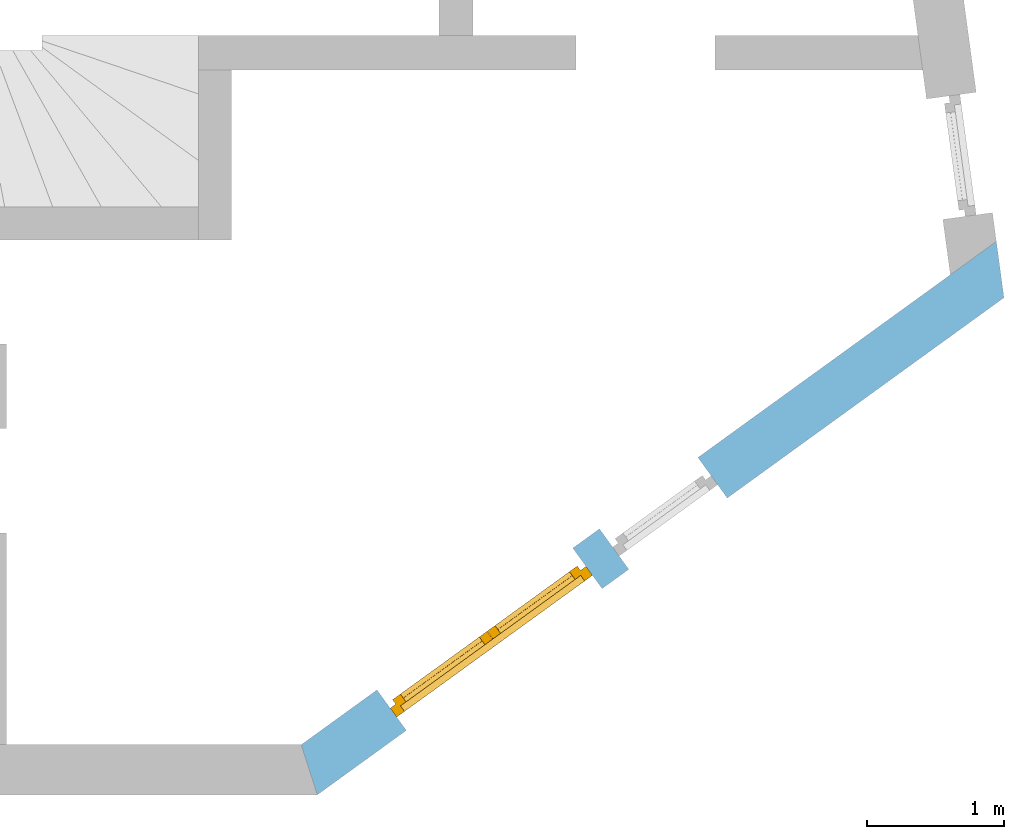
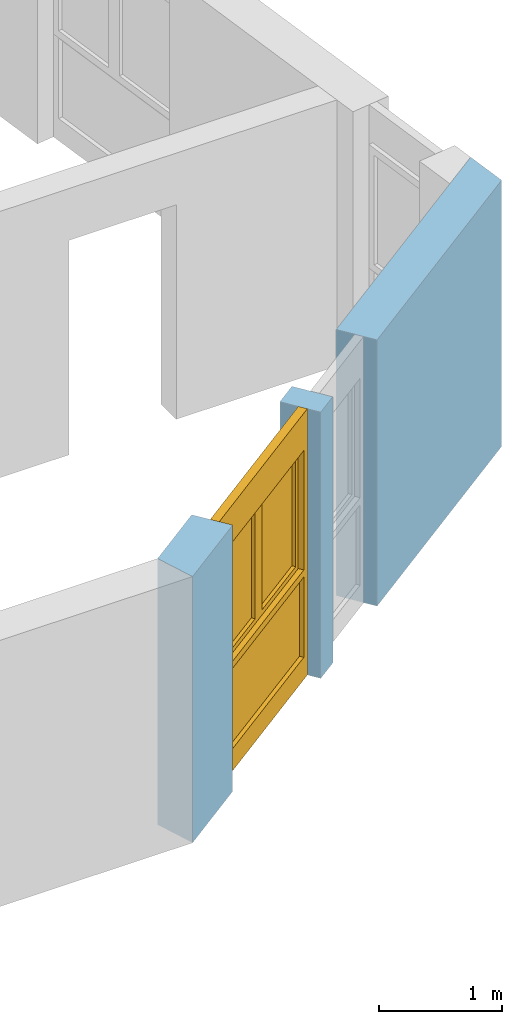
# One storey, part 39 of 42: 1 window, 2 openings, plus 1 element that does not belong to this part.
"""IFC2X3 building model written with IfcOpenShell, lengths in millimetres."""

from ifc_helpers import new_model, entity, si_unit, converted_unit, frame, frame_2d, origin, origin_with_axes, place, context, subcontext, project, spatial, polyline, rectangle, outline, extrude, faceted_brep, material, layer, layer_set, layer_usage, type_object, element, fill, save


model = new_model("IFC2X3")

# Units and contexts
model_context = context("Model", 3, precision=1e-05, world=origin())
body_context = subcontext(model_context, "Body", "Model", "MODEL_VIEW")
ifc_project = project(units=[si_unit("LENGTHUNIT", "METRE", prefix="MILLI"), converted_unit("PLANEANGLEUNIT", "DEGREE", entity("IfcPlaneAngleMeasure", 0.0174532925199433), si_unit("PLANEANGLEUNIT", "RADIAN"), dimensions=[0, 0, 0, 0, 0, 0, 0]), si_unit("AREAUNIT", "SQUARE_METRE"), si_unit("VOLUMEUNIT", "CUBIC_METRE")], contexts=[model_context])

# Building, storey
building_placement = place(None, origin())
building = spatial("IfcBuilding", under=ifc_project, at=building_placement, Name="Gebäude", CompositionType="ELEMENT")
storey_placement = place(building_placement, frame((0.0, 0.0, 2730.0), z_axis=(0.0, 0.0, 1.0), x_axis=(1.0, 0.0, 0.0)))
storey = spatial("IfcBuildingStorey", under=building, at=storey_placement, Name="OG.- Grundriss", CompositionType="ELEMENT", Elevation=2730.0)

# Wall, openings, window
ifc_material_1 = material(Name="Poroton")
ifc_layer = layer(ifc_material_1, 364.9999999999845)
ifc_layer_set = layer_set([ifc_layer])
ifc_layer_usage = layer_usage(ifc_layer_set, "AXIS2", "POSITIVE", 0.0)
wall_placement = place(storey_placement, frame((180502.7928055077, 125274.8877315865, 0.0), z_axis=(0.0, 0.0, 1.0), x_axis=(0.8099951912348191, 0.5864365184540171, 0.0)))
wall = element("IfcWallStandardCase", 1, at=wall_placement, inside=storey, material=ifc_layer_usage, Name="<Unnamed Element>", context=body_context, shape_type="SweptSolid", body=[
    extrude(outline(polyline([(0.0, 0.0), (6172.876154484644, 0.0), (6368.596706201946, 364.9999999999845), (118.2596121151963, 365.0000000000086), (0.0, 0.0)])), origin_with_axes(), (0.0, 0.0, 1.0), 2650.0),
])
opening_1_placement = place(wall_placement, frame((2800.000000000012, 3.205968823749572e-11, 0.0), z_axis=(0.0, 1.0, 0.0), x_axis=(0.0, 0.0, 1.0)))
element("IfcOpeningElement", 2, at=opening_1_placement, cuts=wall, Name="Fensteröffnung", ObjectType="Opening", context=body_context, shape_type="SweptSolid", body=[
    extrude(rectangle(XDim=2650.0, YDim=885.0, at=frame_2d((1325.0, 442.5), x_axis=(1.0, 0.0))), origin_with_axes(), (0.0, 0.0, 1.0), 365.0),
])
opening_2_placement = place(wall_placement, frame((799.9999999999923, 3.126388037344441e-12, 0.0), z_axis=(0.0, 1.0, 0.0), x_axis=(0.0, 0.0, 1.0)))
opening_2 = element("IfcOpeningElement", 3, at=opening_2_placement, cuts=wall, Name="Fensteröffnung", ObjectType="Opening", context=body_context, shape_type="SweptSolid", body=[
    extrude(rectangle(XDim=2650.0, YDim=1760.000000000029, at=frame_2d((1325.0, 880.0000000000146), x_axis=(1.0, 0.0))), origin_with_axes(), (0.0, 0.0, 1.0), 365.0),
])
ifc_material_2 = material()
window_style = type_object("IfcWindowStyle", Name="Fenster", ConstructionType="NOTDEFINED", OperationType="USERDEFINED", ParameterTakesPrecedence=False, Sizeable=False)
window_placement = place(opening_2_placement, frame((0.0, 0.0, 0.0), z_axis=(1.0, 0.0, 0.0), x_axis=(0.0, 1.0, 0.0)))
window = element("IfcWindow", 4, at=window_placement, inside=storey, type_object=window_style, material=ifc_material_2, Name="Fenster", OverallHeight=2650.0, OverallWidth=1760.0, context=body_context, shape_type="Brep", body=[
    faceted_brep([(-2.896616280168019e-11, 200.0000000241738, 2650.0), (-2.896616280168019e-11, 200.0000000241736, -2.449293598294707e-15), (69.99999999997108, 200.0000000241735, -2.449293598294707e-15), (69.99999999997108, 200.0000000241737, 2650.0), (-2.91038304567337e-11, 120.0000000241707, 2.449293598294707e-15), (-2.91038304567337e-11, 120.0000000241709, 2650.0), (69.99999999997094, 120.0000000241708, 2650.0), (69.99999999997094, 120.0000000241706, 2.449293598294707e-15), (-2.896616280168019e-11, 200.0000000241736, -2.449293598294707e-15), (-2.896616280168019e-11, 200.0000000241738, 2650.0), (-2.91038304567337e-11, 120.0000000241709, 2650.0), (-2.91038304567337e-11, 120.0000000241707, 2.449293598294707e-15), (69.99999999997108, 200.0000000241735, -2.449293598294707e-15), (-2.896616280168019e-11, 200.0000000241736, -2.449293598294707e-15), (-2.91038304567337e-11, 120.0000000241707, 2.449293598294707e-15), (69.99999999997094, 120.0000000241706, 2.449293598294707e-15), (69.99999999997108, 200.0000000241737, 2650.0), (69.99999999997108, 200.0000000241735, -2.449293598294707e-15), (69.99999999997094, 120.0000000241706, 2.449293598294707e-15), (69.99999999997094, 120.0000000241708, 2650.0), (-2.896616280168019e-11, 200.0000000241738, 2650.0), (69.99999999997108, 200.0000000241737, 2650.0), (69.99999999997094, 120.0000000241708, 2650.0), (-2.91038304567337e-11, 120.0000000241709, 2650.0)], [[[0, 1, 2, 3]], [[4, 5, 6, 7]], [[8, 9, 10, 11]], [[12, 13, 14, 15]], [[16, 17, 18, 19]], [[20, 21, 22, 23]]], orient=[[False], [False], [False], [False], [False], [False]]),
    faceted_brep([(1690.000000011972, 200.000000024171, 2650.0), (1690.000000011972, 200.0000000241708, -2.449293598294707e-15), (1760.000000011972, 200.0000000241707, -2.449293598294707e-15), (1760.000000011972, 200.0000000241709, 2650.0), (1690.000000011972, 120.0000000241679, 2.449293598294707e-15), (1690.000000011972, 120.0000000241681, 2650.0), (1760.000000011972, 120.000000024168, 2650.0), (1760.000000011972, 120.0000000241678, 2.449293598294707e-15), (1690.000000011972, 200.0000000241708, -2.449293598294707e-15), (1690.000000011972, 200.000000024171, 2650.0), (1690.000000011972, 120.0000000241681, 2650.0), (1690.000000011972, 120.0000000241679, 2.449293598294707e-15), (1760.000000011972, 200.0000000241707, -2.449293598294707e-15), (1690.000000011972, 200.0000000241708, -2.449293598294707e-15), (1690.000000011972, 120.0000000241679, 2.449293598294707e-15), (1760.000000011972, 120.0000000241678, 2.449293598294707e-15), (1760.000000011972, 200.0000000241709, 2650.0), (1760.000000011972, 200.0000000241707, -2.449293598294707e-15), (1760.000000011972, 120.0000000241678, 2.449293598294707e-15), (1760.000000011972, 120.000000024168, 2650.0), (1690.000000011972, 200.000000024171, 2650.0), (1760.000000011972, 200.0000000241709, 2650.0), (1760.000000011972, 120.000000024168, 2650.0), (1690.000000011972, 120.0000000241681, 2650.0)], [[[0, 1, 2, 3]], [[4, 5, 6, 7]], [[8, 9, 10, 11]], [[12, 13, 14, 15]], [[16, 17, 18, 19]], [[20, 21, 22, 23]]], orient=[[False], [False], [False], [False], [False], [False]]),
    faceted_brep([(69.99999999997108, 200.0000000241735, 220.0), (69.99999999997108, 200.0000000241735, -2.449293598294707e-15), (1690.000000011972, 200.0000000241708, -2.449293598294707e-15), (1690.000000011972, 200.0000000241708, 220.0), (69.99999999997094, 120.0000000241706, 2.449293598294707e-15), (69.99999999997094, 120.0000000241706, 220.0), (1690.000000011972, 120.0000000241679, 220.0), (1690.000000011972, 120.0000000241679, 2.449293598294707e-15), (69.99999999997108, 200.0000000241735, -2.449293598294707e-15), (69.99999999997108, 200.0000000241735, 220.0), (69.99999999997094, 120.0000000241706, 220.0), (69.99999999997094, 120.0000000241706, 2.449293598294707e-15), (1690.000000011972, 200.0000000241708, -2.449293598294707e-15), (69.99999999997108, 200.0000000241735, -2.449293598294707e-15), (69.99999999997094, 120.0000000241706, 2.449293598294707e-15), (1690.000000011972, 120.0000000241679, 2.449293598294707e-15), (1690.000000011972, 200.0000000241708, 220.0), (1690.000000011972, 200.0000000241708, -2.449293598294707e-15), (1690.000000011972, 120.0000000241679, 2.449293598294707e-15), (1690.000000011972, 120.0000000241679, 220.0), (69.99999999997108, 200.0000000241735, 220.0), (1690.000000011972, 200.0000000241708, 220.0), (1690.000000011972, 120.0000000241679, 220.0), (69.99999999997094, 120.0000000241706, 220.0)], [[[0, 1, 2, 3]], [[4, 5, 6, 7]], [[8, 9, 10, 11]], [[12, 13, 14, 15]], [[16, 17, 18, 19]], [[20, 21, 22, 23]]], orient=[[False], [False], [False], [False], [False], [False]]),
    faceted_brep([(69.99999999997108, 200.0000000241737, 2650.0), (69.99999999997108, 200.0000000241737, 2280.0), (1690.000000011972, 200.000000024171, 2280.0), (1690.000000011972, 200.000000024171, 2650.0), (69.99999999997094, 120.0000000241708, 2280.0), (69.99999999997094, 120.0000000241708, 2650.0), (1690.000000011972, 120.0000000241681, 2650.0), (1690.000000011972, 120.0000000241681, 2280.0), (69.99999999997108, 200.0000000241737, 2280.0), (69.99999999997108, 200.0000000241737, 2650.0), (69.99999999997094, 120.0000000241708, 2650.0), (69.99999999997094, 120.0000000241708, 2280.0), (1690.000000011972, 200.000000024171, 2280.0), (69.99999999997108, 200.0000000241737, 2280.0), (69.99999999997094, 120.0000000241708, 2280.0), (1690.000000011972, 120.0000000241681, 2280.0), (1690.000000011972, 200.000000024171, 2650.0), (1690.000000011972, 200.000000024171, 2280.0), (1690.000000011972, 120.0000000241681, 2280.0), (1690.000000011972, 120.0000000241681, 2650.0), (69.99999999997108, 200.0000000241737, 2650.0), (1690.000000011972, 200.000000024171, 2650.0), (1690.000000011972, 120.0000000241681, 2650.0), (69.99999999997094, 120.0000000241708, 2650.0)], [[[0, 1, 2, 3]], [[4, 5, 6, 7]], [[8, 9, 10, 11]], [[12, 13, 14, 15]], [[16, 17, 18, 19]], [[20, 21, 22, 23]]], orient=[[False], [False], [False], [False], [False], [False]]),
    faceted_brep([(69.99999999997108, 200.0000000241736, 1090.0), (69.99999999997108, 200.0000000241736, 1020.0), (1690.000000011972, 200.0000000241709, 1020.0), (1690.000000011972, 200.0000000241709, 1090.0), (69.99999999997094, 120.0000000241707, 1020.0), (69.99999999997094, 120.0000000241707, 1090.0), (1690.000000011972, 120.000000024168, 1090.0), (1690.000000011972, 120.000000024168, 1020.0), (69.99999999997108, 200.0000000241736, 1020.0), (69.99999999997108, 200.0000000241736, 1090.0), (69.99999999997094, 120.0000000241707, 1090.0), (69.99999999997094, 120.0000000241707, 1020.0), (1690.000000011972, 200.0000000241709, 1020.0), (69.99999999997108, 200.0000000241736, 1020.0), (69.99999999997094, 120.0000000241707, 1020.0), (1690.000000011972, 120.000000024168, 1020.0), (1690.000000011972, 200.0000000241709, 1090.0), (1690.000000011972, 200.0000000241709, 1020.0), (1690.000000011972, 120.000000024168, 1020.0), (1690.000000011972, 120.000000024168, 1090.0), (69.99999999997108, 200.0000000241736, 1090.0), (1690.000000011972, 200.0000000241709, 1090.0), (1690.000000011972, 120.000000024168, 1090.0), (69.99999999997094, 120.0000000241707, 1090.0)], [[[0, 1, 2, 3]], [[4, 5, 6, 7]], [[8, 9, 10, 11]], [[12, 13, 14, 15]], [[16, 17, 18, 19]], [[20, 21, 22, 23]]], orient=[[False], [False], [False], [False], [False], [False]]),
    faceted_brep([(69.99999999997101, 160.0000000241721, 220.0), (1690.000000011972, 160.0000000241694, 220.0), (1690.000000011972, 160.0000000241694, 1020.0), (69.99999999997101, 160.0000000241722, 1020.0), (69.99999999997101, 159.0000000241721, 220.0), (69.99999999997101, 159.0000000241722, 1020.0), (1690.000000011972, 159.0000000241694, 1020.0), (1690.000000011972, 159.0000000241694, 220.0), (69.99999999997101, 160.0000000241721, 220.0), (69.99999999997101, 159.0000000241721, 220.0), (1690.000000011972, 159.0000000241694, 220.0), (1690.000000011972, 160.0000000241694, 220.0), (1690.000000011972, 160.0000000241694, 220.0), (1690.000000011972, 159.0000000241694, 220.0), (1690.000000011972, 159.0000000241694, 1020.0), (1690.000000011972, 160.0000000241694, 1020.0), (1690.000000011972, 160.0000000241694, 1020.0), (1690.000000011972, 159.0000000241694, 1020.0), (69.99999999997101, 159.0000000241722, 1020.0), (69.99999999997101, 160.0000000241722, 1020.0), (69.99999999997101, 160.0000000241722, 1020.0), (69.99999999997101, 159.0000000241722, 1020.0), (69.99999999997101, 159.0000000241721, 220.0), (69.99999999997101, 160.0000000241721, 220.0)], [[[0, 1, 2, 3]], [[4, 5, 6, 7]], [[8, 9, 10, 11]], [[12, 13, 14, 15]], [[16, 17, 18, 19]], [[20, 21, 22, 23]]], orient=[[False], [False], [False], [False], [False], [False]]),
    faceted_brep([(49.99999999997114, 240.0000000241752, 2300.0), (49.99999999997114, 240.0000000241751, 1070.0), (119.9999999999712, 240.000000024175, 1070.0), (119.9999999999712, 240.0000000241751, 2300.0), (49.99999999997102, 170.0000000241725, 1070.0), (49.99999999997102, 170.0000000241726, 2300.0), (119.9999999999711, 170.0000000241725, 2300.0), (119.9999999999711, 170.0000000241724, 1070.0), (49.99999999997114, 240.0000000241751, 1070.0), (49.99999999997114, 240.0000000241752, 2300.0), (49.99999999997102, 170.0000000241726, 2300.0), (49.99999999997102, 170.0000000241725, 1070.0), (119.9999999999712, 240.000000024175, 1070.0), (49.99999999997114, 240.0000000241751, 1070.0), (49.99999999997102, 170.0000000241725, 1070.0), (119.9999999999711, 170.0000000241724, 1070.0), (119.9999999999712, 240.0000000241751, 2300.0), (119.9999999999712, 240.000000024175, 1070.0), (119.9999999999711, 170.0000000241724, 1070.0), (119.9999999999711, 170.0000000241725, 2300.0), (49.99999999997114, 240.0000000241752, 2300.0), (119.9999999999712, 240.0000000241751, 2300.0), (119.9999999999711, 170.0000000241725, 2300.0), (49.99999999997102, 170.0000000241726, 2300.0)], [[[0, 1, 2, 3]], [[4, 5, 6, 7]], [[8, 9, 10, 11]], [[12, 13, 14, 15]], [[16, 17, 18, 19]], [[20, 21, 22, 23]]], orient=[[False], [False], [False], [False], [False], [False]]),
    faceted_brep([(829.5000000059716, 240.0000000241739, 2300.0), (829.5000000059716, 240.0000000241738, 1070.0), (899.5000000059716, 240.0000000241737, 1070.0), (899.5000000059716, 240.0000000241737, 2300.0), (829.5000000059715, 170.0000000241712, 1070.0), (829.5000000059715, 170.0000000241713, 2300.0), (899.5000000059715, 170.0000000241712, 2300.0), (899.5000000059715, 170.0000000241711, 1070.0), (829.5000000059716, 240.0000000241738, 1070.0), (829.5000000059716, 240.0000000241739, 2300.0), (829.5000000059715, 170.0000000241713, 2300.0), (829.5000000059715, 170.0000000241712, 1070.0), (899.5000000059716, 240.0000000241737, 1070.0), (829.5000000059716, 240.0000000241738, 1070.0), (829.5000000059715, 170.0000000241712, 1070.0), (899.5000000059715, 170.0000000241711, 1070.0), (899.5000000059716, 240.0000000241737, 2300.0), (899.5000000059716, 240.0000000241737, 1070.0), (899.5000000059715, 170.0000000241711, 1070.0), (899.5000000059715, 170.0000000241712, 2300.0), (829.5000000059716, 240.0000000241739, 2300.0), (899.5000000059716, 240.0000000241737, 2300.0), (899.5000000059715, 170.0000000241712, 2300.0), (829.5000000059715, 170.0000000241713, 2300.0)], [[[0, 1, 2, 3]], [[4, 5, 6, 7]], [[8, 9, 10, 11]], [[12, 13, 14, 15]], [[16, 17, 18, 19]], [[20, 21, 22, 23]]], orient=[[False], [False], [False], [False], [False], [False]]),
    faceted_brep([(119.9999999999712, 240.000000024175, 1140.0), (119.9999999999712, 240.000000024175, 1070.0), (829.5000000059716, 240.0000000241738, 1070.0), (829.5000000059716, 240.0000000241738, 1140.0), (119.9999999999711, 170.0000000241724, 1070.0), (119.9999999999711, 170.0000000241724, 1140.0), (829.5000000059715, 170.0000000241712, 1140.0), (829.5000000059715, 170.0000000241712, 1070.0), (119.9999999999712, 240.000000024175, 1070.0), (119.9999999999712, 240.000000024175, 1140.0), (119.9999999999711, 170.0000000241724, 1140.0), (119.9999999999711, 170.0000000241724, 1070.0), (829.5000000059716, 240.0000000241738, 1070.0), (119.9999999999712, 240.000000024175, 1070.0), (119.9999999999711, 170.0000000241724, 1070.0), (829.5000000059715, 170.0000000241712, 1070.0), (829.5000000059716, 240.0000000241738, 1140.0), (829.5000000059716, 240.0000000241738, 1070.0), (829.5000000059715, 170.0000000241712, 1070.0), (829.5000000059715, 170.0000000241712, 1140.0), (119.9999999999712, 240.000000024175, 1140.0), (829.5000000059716, 240.0000000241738, 1140.0), (829.5000000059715, 170.0000000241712, 1140.0), (119.9999999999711, 170.0000000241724, 1140.0)], [[[0, 1, 2, 3]], [[4, 5, 6, 7]], [[8, 9, 10, 11]], [[12, 13, 14, 15]], [[16, 17, 18, 19]], [[20, 21, 22, 23]]], orient=[[False], [False], [False], [False], [False], [False]]),
    faceted_brep([(119.9999999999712, 240.0000000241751, 2300.0), (119.9999999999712, 240.0000000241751, 2230.0), (829.5000000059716, 240.0000000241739, 2230.0), (829.5000000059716, 240.0000000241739, 2300.0), (119.9999999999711, 170.0000000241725, 2230.0), (119.9999999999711, 170.0000000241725, 2300.0), (829.5000000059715, 170.0000000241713, 2300.0), (829.5000000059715, 170.0000000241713, 2230.0), (119.9999999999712, 240.0000000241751, 2230.0), (119.9999999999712, 240.0000000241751, 2300.0), (119.9999999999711, 170.0000000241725, 2300.0), (119.9999999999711, 170.0000000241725, 2230.0), (829.5000000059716, 240.0000000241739, 2230.0), (119.9999999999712, 240.0000000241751, 2230.0), (119.9999999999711, 170.0000000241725, 2230.0), (829.5000000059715, 170.0000000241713, 2230.0), (829.5000000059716, 240.0000000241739, 2300.0), (829.5000000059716, 240.0000000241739, 2230.0), (829.5000000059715, 170.0000000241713, 2230.0), (829.5000000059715, 170.0000000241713, 2300.0), (119.9999999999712, 240.0000000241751, 2300.0), (829.5000000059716, 240.0000000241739, 2300.0), (829.5000000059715, 170.0000000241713, 2300.0), (119.9999999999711, 170.0000000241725, 2300.0)], [[[0, 1, 2, 3]], [[4, 5, 6, 7]], [[8, 9, 10, 11]], [[12, 13, 14, 15]], [[16, 17, 18, 19]], [[20, 21, 22, 23]]], orient=[[False], [False], [False], [False], [False], [False]]),
    faceted_brep([(900.5000000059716, 240.0000000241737, 2300.0), (900.5000000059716, 240.0000000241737, 1070.0), (970.5000000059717, 240.0000000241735, 1070.0), (970.5000000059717, 240.0000000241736, 2300.0), (900.5000000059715, 170.0000000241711, 1070.0), (900.5000000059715, 170.0000000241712, 2300.0), (970.5000000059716, 170.0000000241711, 2300.0), (970.5000000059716, 170.000000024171, 1070.0), (900.5000000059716, 240.0000000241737, 1070.0), (900.5000000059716, 240.0000000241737, 2300.0), (900.5000000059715, 170.0000000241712, 2300.0), (900.5000000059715, 170.0000000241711, 1070.0), (970.5000000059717, 240.0000000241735, 1070.0), (900.5000000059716, 240.0000000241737, 1070.0), (900.5000000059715, 170.0000000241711, 1070.0), (970.5000000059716, 170.000000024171, 1070.0), (970.5000000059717, 240.0000000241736, 2300.0), (970.5000000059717, 240.0000000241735, 1070.0), (970.5000000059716, 170.000000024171, 1070.0), (970.5000000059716, 170.0000000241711, 2300.0), (900.5000000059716, 240.0000000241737, 2300.0), (970.5000000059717, 240.0000000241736, 2300.0), (970.5000000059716, 170.0000000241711, 2300.0), (900.5000000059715, 170.0000000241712, 2300.0)], [[[0, 1, 2, 3]], [[4, 5, 6, 7]], [[8, 9, 10, 11]], [[12, 13, 14, 15]], [[16, 17, 18, 19]], [[20, 21, 22, 23]]], orient=[[False], [False], [False], [False], [False], [False]]),
    faceted_brep([(1640.000000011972, 240.0000000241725, 2300.0), (1640.000000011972, 240.0000000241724, 1070.0), (1710.000000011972, 240.0000000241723, 1070.0), (1710.000000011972, 240.0000000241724, 2300.0), (1640.000000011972, 170.0000000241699, 1070.0), (1640.000000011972, 170.0000000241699, 2300.0), (1710.000000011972, 170.0000000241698, 2300.0), (1710.000000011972, 170.0000000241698, 1070.0), (1640.000000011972, 240.0000000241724, 1070.0), (1640.000000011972, 240.0000000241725, 2300.0), (1640.000000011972, 170.0000000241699, 2300.0), (1640.000000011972, 170.0000000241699, 1070.0), (1710.000000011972, 240.0000000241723, 1070.0), (1640.000000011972, 240.0000000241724, 1070.0), (1640.000000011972, 170.0000000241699, 1070.0), (1710.000000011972, 170.0000000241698, 1070.0), (1710.000000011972, 240.0000000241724, 2300.0), (1710.000000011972, 240.0000000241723, 1070.0), (1710.000000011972, 170.0000000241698, 1070.0), (1710.000000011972, 170.0000000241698, 2300.0), (1640.000000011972, 240.0000000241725, 2300.0), (1710.000000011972, 240.0000000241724, 2300.0), (1710.000000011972, 170.0000000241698, 2300.0), (1640.000000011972, 170.0000000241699, 2300.0)], [[[0, 1, 2, 3]], [[4, 5, 6, 7]], [[8, 9, 10, 11]], [[12, 13, 14, 15]], [[16, 17, 18, 19]], [[20, 21, 22, 23]]], orient=[[False], [False], [False], [False], [False], [False]]),
    faceted_brep([(970.5000000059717, 240.0000000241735, 1140.0), (970.5000000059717, 240.0000000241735, 1070.0), (1640.000000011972, 240.0000000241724, 1070.0), (1640.000000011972, 240.0000000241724, 1140.0), (970.5000000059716, 170.000000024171, 1070.0), (970.5000000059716, 170.000000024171, 1140.0), (1640.000000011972, 170.0000000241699, 1140.0), (1640.000000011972, 170.0000000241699, 1070.0), (970.5000000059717, 240.0000000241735, 1070.0), (970.5000000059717, 240.0000000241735, 1140.0), (970.5000000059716, 170.000000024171, 1140.0), (970.5000000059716, 170.000000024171, 1070.0), (1640.000000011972, 240.0000000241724, 1070.0), (970.5000000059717, 240.0000000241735, 1070.0), (970.5000000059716, 170.000000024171, 1070.0), (1640.000000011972, 170.0000000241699, 1070.0), (1640.000000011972, 240.0000000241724, 1140.0), (1640.000000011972, 240.0000000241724, 1070.0), (1640.000000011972, 170.0000000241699, 1070.0), (1640.000000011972, 170.0000000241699, 1140.0), (970.5000000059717, 240.0000000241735, 1140.0), (1640.000000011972, 240.0000000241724, 1140.0), (1640.000000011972, 170.0000000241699, 1140.0), (970.5000000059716, 170.000000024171, 1140.0)], [[[0, 1, 2, 3]], [[4, 5, 6, 7]], [[8, 9, 10, 11]], [[12, 13, 14, 15]], [[16, 17, 18, 19]], [[20, 21, 22, 23]]], orient=[[False], [False], [False], [False], [False], [False]]),
    faceted_brep([(970.5000000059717, 240.0000000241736, 2300.0), (970.5000000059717, 240.0000000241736, 2230.0), (1640.000000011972, 240.0000000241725, 2230.0), (1640.000000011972, 240.0000000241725, 2300.0), (970.5000000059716, 170.0000000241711, 2230.0), (970.5000000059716, 170.0000000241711, 2300.0), (1640.000000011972, 170.0000000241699, 2300.0), (1640.000000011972, 170.0000000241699, 2230.0), (970.5000000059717, 240.0000000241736, 2230.0), (970.5000000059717, 240.0000000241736, 2300.0), (970.5000000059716, 170.0000000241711, 2300.0), (970.5000000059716, 170.0000000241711, 2230.0), (1640.000000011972, 240.0000000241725, 2230.0), (970.5000000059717, 240.0000000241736, 2230.0), (970.5000000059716, 170.0000000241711, 2230.0), (1640.000000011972, 170.0000000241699, 2230.0), (1640.000000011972, 240.0000000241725, 2300.0), (1640.000000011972, 240.0000000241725, 2230.0), (1640.000000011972, 170.0000000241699, 2230.0), (1640.000000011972, 170.0000000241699, 2300.0), (970.5000000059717, 240.0000000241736, 2300.0), (1640.000000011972, 240.0000000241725, 2300.0), (1640.000000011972, 170.0000000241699, 2300.0), (970.5000000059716, 170.0000000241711, 2300.0)], [[[0, 1, 2, 3]], [[4, 5, 6, 7]], [[8, 9, 10, 11]], [[12, 13, 14, 15]], [[16, 17, 18, 19]], [[20, 21, 22, 23]]], orient=[[False], [False], [False], [False], [False], [False]]),
    faceted_brep([(119.9999999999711, 205.0000000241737, 1140.0), (829.5000000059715, 205.0000000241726, 1140.0), (829.5000000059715, 205.0000000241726, 2230.0), (119.9999999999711, 205.0000000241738, 2230.0), (119.9999999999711, 204.0000000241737, 1140.0), (119.9999999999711, 204.0000000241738, 2230.0), (829.5000000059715, 204.0000000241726, 2230.0), (829.5000000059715, 204.0000000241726, 1140.0), (119.9999999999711, 205.0000000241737, 1140.0), (119.9999999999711, 204.0000000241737, 1140.0), (829.5000000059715, 204.0000000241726, 1140.0), (829.5000000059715, 205.0000000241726, 1140.0), (829.5000000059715, 205.0000000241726, 1140.0), (829.5000000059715, 204.0000000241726, 1140.0), (829.5000000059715, 204.0000000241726, 2230.0), (829.5000000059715, 205.0000000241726, 2230.0), (829.5000000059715, 205.0000000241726, 2230.0), (829.5000000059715, 204.0000000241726, 2230.0), (119.9999999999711, 204.0000000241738, 2230.0), (119.9999999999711, 205.0000000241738, 2230.0), (119.9999999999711, 205.0000000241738, 2230.0), (119.9999999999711, 204.0000000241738, 2230.0), (119.9999999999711, 204.0000000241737, 1140.0), (119.9999999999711, 205.0000000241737, 1140.0)], [[[0, 1, 2, 3]], [[4, 5, 6, 7]], [[8, 9, 10, 11]], [[12, 13, 14, 15]], [[16, 17, 18, 19]], [[20, 21, 22, 23]]], orient=[[False], [False], [False], [False], [False], [False]]),
    faceted_brep([(970.5000000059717, 205.0000000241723, 1140.0), (1640.000000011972, 205.0000000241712, 1140.0), (1640.000000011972, 205.0000000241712, 2230.0), (970.5000000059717, 205.0000000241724, 2230.0), (970.5000000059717, 204.0000000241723, 1140.0), (970.5000000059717, 204.0000000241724, 2230.0), (1640.000000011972, 204.0000000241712, 2230.0), (1640.000000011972, 204.0000000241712, 1140.0), (970.5000000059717, 205.0000000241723, 1140.0), (970.5000000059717, 204.0000000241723, 1140.0), (1640.000000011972, 204.0000000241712, 1140.0), (1640.000000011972, 205.0000000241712, 1140.0), (1640.000000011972, 205.0000000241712, 1140.0), (1640.000000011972, 204.0000000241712, 1140.0), (1640.000000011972, 204.0000000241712, 2230.0), (1640.000000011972, 205.0000000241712, 2230.0), (1640.000000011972, 205.0000000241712, 2230.0), (1640.000000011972, 204.0000000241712, 2230.0), (970.5000000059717, 204.0000000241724, 2230.0), (970.5000000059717, 205.0000000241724, 2230.0), (970.5000000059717, 205.0000000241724, 2230.0), (970.5000000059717, 204.0000000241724, 2230.0), (970.5000000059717, 204.0000000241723, 1140.0), (970.5000000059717, 205.0000000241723, 1140.0)], [[[0, 1, 2, 3]], [[4, 5, 6, 7]], [[8, 9, 10, 11]], [[12, 13, 14, 15]], [[16, 17, 18, 19]], [[20, 21, 22, 23]]], orient=[[False], [False], [False], [False], [False], [False]]),
])
fill(opening_2, window)

save(model, "model.ifc")
